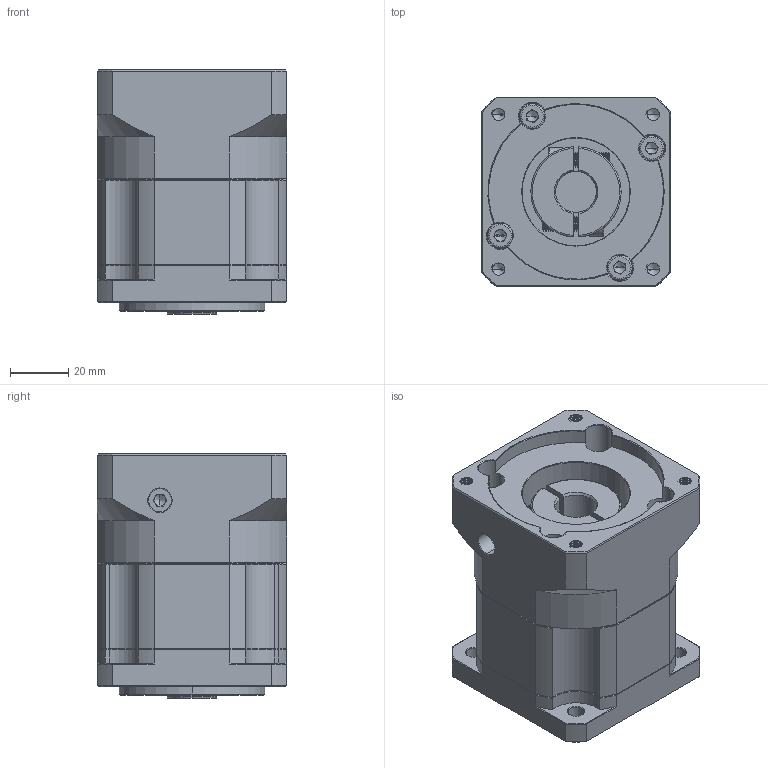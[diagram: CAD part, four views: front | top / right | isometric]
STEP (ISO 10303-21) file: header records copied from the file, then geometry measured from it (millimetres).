
FILE_DESCRIPTION (( 'STEP AP214' ), '1' );
FILE_NAME ('ZB060-K10-L1-P2-14-60-75-M5.step', '2023-08-16T07:09:49', ( '' ), ( '' ), 'SwSTEP 2.0', 'SolidWorks 2016', '' );
FILE_SCHEMA (( 'AUTOMOTIVE_DESIGN' ));
Length unit declared in the file: millimetre
Products named in the file (1): ZB060-K10-L1-P2-14-60-75-M5
Bounding box: 65 x 65 x 84 mm (x, y, z)
Volume: 257897.7 mm3; surface area: 53514.2 mm2
Topology: 6 solids, 6 shells, 2119 faces, 5709 edges, 3677 vertices
Faces by surface type: plane 1056, bspline 390, cylinder 357, cone 282, torus 34
Entity records: 112204 total; most frequent: CARTESIAN_POINT 38538, ORIENTED_EDGE 11362, DIRECTION 9044, EDGE_CURVE 5681, VERTEX_POINT 3677, VECTOR 3610, LINE 3610, AXIS2_PLACEMENT_3D 2717
